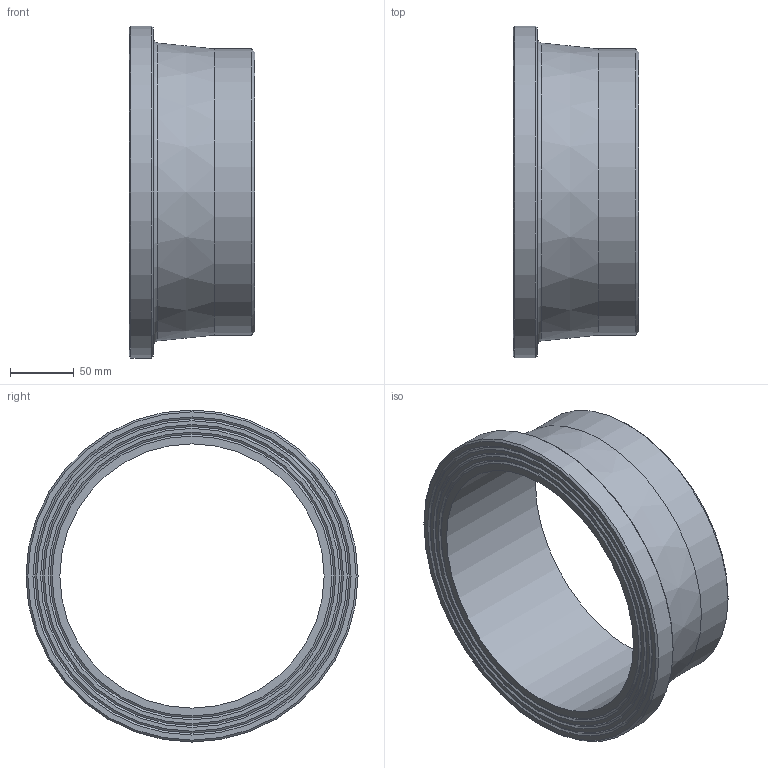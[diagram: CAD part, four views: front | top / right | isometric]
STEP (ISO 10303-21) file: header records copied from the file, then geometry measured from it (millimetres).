
FILE_DESCRIPTION(/* description */ ('Unknown'),/* implementation_level */ '2;1');
FILE_NAME(/* name */ 'CCP225A',/* time_stamp */ '2022-04-05T10:13:03+02:00',/* author */ ('Unknown'),/* organization */ ('Unknown'),/* preprocessor_version */ 'ST-DEVELOPER v18.1',/* originating_system */ 'Solid Edge',/* authorisation */ 'Unknown');
FILE_SCHEMA (('AUTOMOTIVE_DESIGN {1 0 10303 214 3 1 1}'));
Length unit declared in the file: millimetre
Products named in the file (1): CCP225A
Bounding box: 99 x 261 x 261 mm (x, y, z)
Volume: 920289.7 mm3; surface area: 171382.5 mm2
Topology: 1 solids, 1 shells, 20 faces, 35 edges, 21 vertices
Faces by surface type: cone 10, plane 6, cylinder 3, torus 1
Full cylindrical faces by diameter (mm): 207.8 x1, 225 x1, 261 x1
Entity records: 438 total; most frequent: DIRECTION 82, CARTESIAN_POINT 61, AXIS2_PLACEMENT_3D 41, ORIENTED_EDGE 40, EDGE_LOOP 40, FACE_BOUND 40, EDGE_CURVE 20, VERTEX_POINT 20
